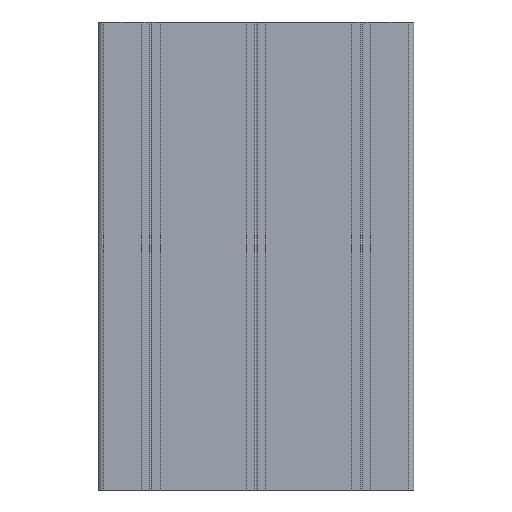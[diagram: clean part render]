
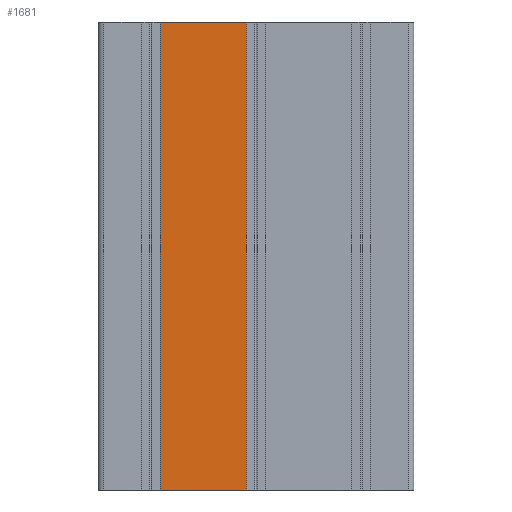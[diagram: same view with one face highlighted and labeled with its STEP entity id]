
A CAD part, front view. The second image highlights one B-rep face of the part: STEP entity #1681.
In plain terms, the highlighted planar face has unit normal (0, -1, 0).
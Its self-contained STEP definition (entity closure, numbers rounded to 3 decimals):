
#670 = DIRECTION ( 'NONE',  ( 0., 0., -1. ) ) ;
#704 = CARTESIAN_POINT ( 'NONE',  ( -4.682, -21.466, 200. ) ) ;
#714 = DIRECTION ( 'NONE',  ( 0., 0., -1. ) ) ;
#781 = CARTESIAN_POINT ( 'NONE',  ( -41.482, -21.466, 200. ) ) ;
#966 = EDGE_CURVE ( 'NONE', #3337, #1288, #6439, .T. ) ;
#1076 = CARTESIAN_POINT ( 'NONE',  ( -4.682, -21.466, 0. ) ) ;
#1157 = DIRECTION ( 'NONE',  ( 0., 0., 1. ) ) ;
#1233 = PLANE ( 'NONE',  #3802 ) ;
#1288 = VERTEX_POINT ( 'NONE', #1076 ) ;
#1344 = DIRECTION ( 'NONE',  ( 0., 1., 0. ) ) ;
#1397 = CARTESIAN_POINT ( 'NONE',  ( -41.482, -21.466, 200. ) ) ;
#1681 = ADVANCED_FACE ( 'NONE', ( #4277 ), #1233, .F. ) ;
#1784 = EDGE_LOOP ( 'NONE', ( #3304, #3417, #3573, #3699 ) ) ;
#1875 = LINE ( 'NONE', #2669, #1880 ) ;
#1880 = VECTOR ( 'NONE', #2712, 1000. ) ;
#2156 = VECTOR ( 'NONE', #670, 1000. ) ;
#2214 = VECTOR ( 'NONE', #714, 1000. ) ;
#2239 = LINE ( 'NONE', #704, #2156 ) ;
#2395 = LINE ( 'NONE', #781, #2214 ) ;
#2562 = EDGE_CURVE ( 'NONE', #6008, #3337, #2395, .T. ) ;
#2570 = EDGE_CURVE ( 'NONE', #3865, #1288, #2239, .T. ) ;
#2669 = CARTESIAN_POINT ( 'NONE',  ( -41.482, -21.466, 200. ) ) ;
#2712 = DIRECTION ( 'NONE',  ( 1., 0., 0. ) ) ;
#2724 = EDGE_CURVE ( 'NONE', #6008, #3865, #1875, .T. ) ;
#2872 = CARTESIAN_POINT ( 'NONE',  ( -41.482, -21.466, 0. ) ) ;
#3181 = CARTESIAN_POINT ( 'NONE',  ( -41.482, -21.466, 200. ) ) ;
#3304 = ORIENTED_EDGE ( 'NONE', *, *, #966, .T. ) ;
#3337 = VERTEX_POINT ( 'NONE', #2872 ) ;
#3417 = ORIENTED_EDGE ( 'NONE', *, *, #2570, .F. ) ;
#3573 = ORIENTED_EDGE ( 'NONE', *, *, #2724, .F. ) ;
#3699 = ORIENTED_EDGE ( 'NONE', *, *, #2562, .T. ) ;
#3802 = AXIS2_PLACEMENT_3D ( 'NONE', #1397, #1344, #1157 ) ;
#3865 = VERTEX_POINT ( 'NONE', #5957 ) ;
#4277 = FACE_OUTER_BOUND ( 'NONE', #1784, .T. ) ;
#4836 = DIRECTION ( 'NONE',  ( 1., 0., 0. ) ) ;
#4876 = CARTESIAN_POINT ( 'NONE',  ( -41.482, -21.466, 0. ) ) ;
#5957 = CARTESIAN_POINT ( 'NONE',  ( -4.682, -21.466, 200. ) ) ;
#6008 = VERTEX_POINT ( 'NONE', #3181 ) ;
#6277 = VECTOR ( 'NONE', #4836, 1000. ) ;
#6439 = LINE ( 'NONE', #4876, #6277 ) ;
